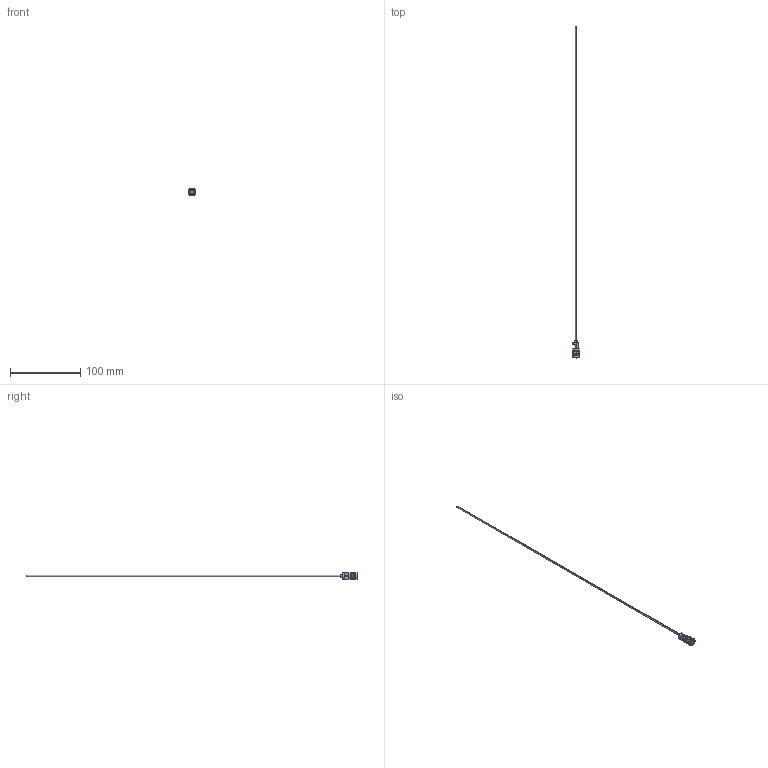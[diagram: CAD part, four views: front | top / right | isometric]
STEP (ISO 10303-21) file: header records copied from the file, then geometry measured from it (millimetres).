
FILE_DESCRIPTION (( 'STEP AP203' ), '1' );
FILE_NAME ('RF-10Fx450-2,5.STEP', '2015-11-19T16:04:21', ( 'Balzi' ), ( '' ), 'SwSTEP 2.0', 'SolidWorks 2015', '' );
FILE_SCHEMA (( 'CONFIG_CONTROL_DESIGN' ));
Length unit declared in the file: millimetre
Products named in the file (1): RF-10Fx450-2,5
Bounding box: 11.3 x 472.5 x 11.3 mm (x, y, z)
Volume: 2063.7 mm3; surface area: 7643.4 mm2
Topology: 1 solids, 1 shells, 71 faces, 164 edges, 102 vertices
Faces by surface type: plane 26, cylinder 25, cone 12, torus 8
Entity records: 2114 total; most frequent: DIRECTION 385, CARTESIAN_POINT 357, ORIENTED_EDGE 328, EDGE_CURVE 164, AXIS2_PLACEMENT_3D 154, VERTEX_POINT 102, CIRCLE 82, EDGE_LOOP 80
